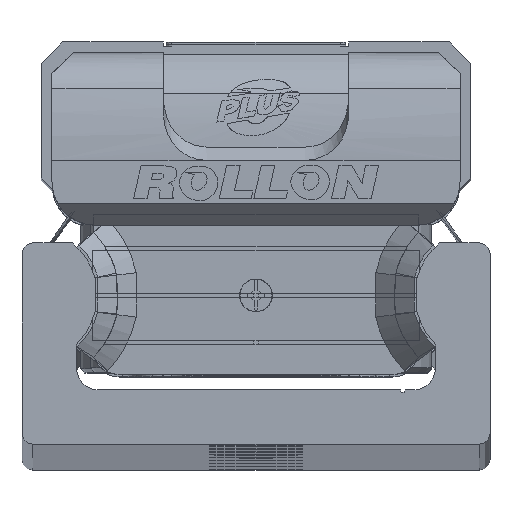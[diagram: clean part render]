
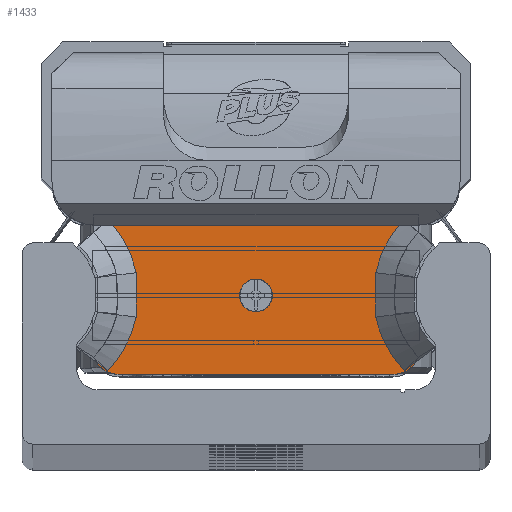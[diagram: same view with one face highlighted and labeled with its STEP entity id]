
A CAD part, top view. The second image highlights one B-rep face of the part: STEP entity #1433.
In plain terms, the highlighted planar face has unit normal (0, 0, 1) as drawn and (0, 0, -1) by its records, which use the part's own axes.
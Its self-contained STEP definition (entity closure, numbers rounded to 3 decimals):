
#1433 = ADVANCED_FACE( '', ( #3256, #3257 ), #3258, .F. );
#3256 = FACE_BOUND( '', #5607, .T. );
#3257 = FACE_OUTER_BOUND( '', #5608, .T. );
#3258 = PLANE( '', #5609 );
#5607 = EDGE_LOOP( '', ( #9508 ) );
#5608 = EDGE_LOOP( '', ( #9509, #9510, #9511, #9512, #9513, #9514, #9515, #9516, #9517, #9518, #9519, #9520 ) );
#5609 = AXIS2_PLACEMENT_3D( '', #9521, #9522, #9523 );
#9508 = ORIENTED_EDGE( '', *, *, #14097, .T. );
#9509 = ORIENTED_EDGE( '', *, *, #13518, .T. );
#9510 = ORIENTED_EDGE( '', *, *, #14098, .F. );
#9511 = ORIENTED_EDGE( '', *, *, #14099, .T. );
#9512 = ORIENTED_EDGE( '', *, *, #14100, .F. );
#9513 = ORIENTED_EDGE( '', *, *, #14101, .T. );
#9514 = ORIENTED_EDGE( '', *, *, #14102, .T. );
#9515 = ORIENTED_EDGE( '', *, *, #12838, .T. );
#9516 = ORIENTED_EDGE( '', *, *, #14103, .T. );
#9517 = ORIENTED_EDGE( '', *, *, #12988, .T. );
#9518 = ORIENTED_EDGE( '', *, *, #13909, .T. );
#9519 = ORIENTED_EDGE( '', *, *, #14016, .T. );
#9520 = ORIENTED_EDGE( '', *, *, #14104, .T. );
#9521 = CARTESIAN_POINT( '', ( 14.9, 7.35, -13.25 ) );
#9522 = DIRECTION( '', ( 0., 0., 1. ) );
#9523 = DIRECTION( '', ( 1., 0., 0. ) );
#12838 = EDGE_CURVE( '', #15233, #15231, #15234, .T. );
#12988 = EDGE_CURVE( '', #15494, #15492, #15495, .T. );
#13518 = EDGE_CURVE( '', #16384, #16382, #16385, .T. );
#13909 = EDGE_CURVE( '', #15492, #16994, #16996, .T. );
#14016 = EDGE_CURVE( '', #16994, #17158, #17160, .T. );
#14097 = EDGE_CURVE( '', #17270, #17270, #17271, .T. );
#14098 = EDGE_CURVE( '', #17272, #16382, #17273, .T. );
#14099 = EDGE_CURVE( '', #17272, #17274, #17275, .T. );
#14100 = EDGE_CURVE( '', #15624, #17274, #17276, .T. );
#14101 = EDGE_CURVE( '', #15624, #17277, #17278, .T. );
#14102 = EDGE_CURVE( '', #17277, #15233, #17279, .T. );
#14103 = EDGE_CURVE( '', #15231, #15494, #17280, .T. );
#14104 = EDGE_CURVE( '', #17158, #16384, #17281, .T. );
#15231 = VERTEX_POINT( '', #18665 );
#15233 = VERTEX_POINT( '', #18668 );
#15234 = B_SPLINE_CURVE_WITH_KNOTS( '', 2, ( #18669, #18670, #18671 ), .UNSPECIFIED., .F., .F., ( 3, 3 ), ( 0., 1. ), .UNSPECIFIED. );
#15492 = VERTEX_POINT( '', #19035 );
#15494 = VERTEX_POINT( '', #19040 );
#15495 = LINE( '', #19041, #19042 );
#15624 = VERTEX_POINT( '', #19223 );
#16382 = VERTEX_POINT( '', #20301 );
#16384 = VERTEX_POINT( '', #20304 );
#16385 = B_SPLINE_CURVE_WITH_KNOTS( '', 1, ( #20305, #20306 ), .UNSPECIFIED., .F., .F., ( 2, 2 ), ( 0., 1. ), .UNSPECIFIED. );
#16994 = VERTEX_POINT( '', #21131 );
#16996 = B_SPLINE_CURVE_WITH_KNOTS( '', 2, ( #21134, #21135, #21136, #21137, #21138 ), .UNSPECIFIED., .F., .F., ( 3, 2, 3 ), ( 0.133, 0.5, 1. ), .UNSPECIFIED. );
#17158 = VERTEX_POINT( '', #21348 );
#17160 = B_SPLINE_CURVE_WITH_KNOTS( '', 2, ( #21351, #21352, #21353 ), .UNSPECIFIED., .F., .F., ( 3, 3 ), ( 0., 1. ), .UNSPECIFIED. );
#17270 = VERTEX_POINT( '', #21591 );
#17271 = CIRCLE( '', #21592, 1.5 );
#17272 = VERTEX_POINT( '', #21593 );
#17273 = CIRCLE( '', #21594, 2.5 );
#17274 = VERTEX_POINT( '', #21595 );
#17275 = LINE( '', #21596, #21597 );
#17276 = CIRCLE( '', #21598, 2.5 );
#17277 = VERTEX_POINT( '', #21599 );
#17278 = B_SPLINE_CURVE_WITH_KNOTS( '', 1, ( #21600, #21601 ), .UNSPECIFIED., .F., .F., ( 2, 2 ), ( 0., 1. ), .UNSPECIFIED. );
#17279 = B_SPLINE_CURVE_WITH_KNOTS( '', 2, ( #21602, #21603, #21604, #21605, #21606 ), .UNSPECIFIED., .F., .F., ( 3, 2, 3 ), ( 0., 0.5, 1. ), .UNSPECIFIED. );
#17280 = B_SPLINE_CURVE_WITH_KNOTS( '', 2, ( #21607, #21608, #21609, #21610, #21611 ), .UNSPECIFIED., .F., .F., ( 3, 2, 3 ), ( 0., 0.5, 0.868 ), .UNSPECIFIED. );
#17281 = B_SPLINE_CURVE_WITH_KNOTS( '', 2, ( #21612, #21613, #21614, #21615, #21616 ), .UNSPECIFIED., .F., .F., ( 3, 2, 3 ), ( 0., 0.5, 1. ), .UNSPECIFIED. );
#18665 = CARTESIAN_POINT( '', ( -11.012, 2.045, -13.25 ) );
#18668 = CARTESIAN_POINT( '', ( -11.012, -2.045, -13.25 ) );
#18669 = CARTESIAN_POINT( '', ( -11.012, -2.045, -13.25 ) );
#18670 = CARTESIAN_POINT( '', ( -10.888, 0., -13.25 ) );
#18671 = CARTESIAN_POINT( '', ( -11.012, 2.045, -13.25 ) );
#19035 = CARTESIAN_POINT( '', ( 13.12, 6.4, -13.25 ) );
#19040 = CARTESIAN_POINT( '', ( -13.119, 6.4, -13.25 ) );
#19041 = CARTESIAN_POINT( '', ( 14.9, 6.4, -13.25 ) );
#19042 = VECTOR( '', #23475, 1000. );
#19223 = CARTESIAN_POINT( '', ( -14.904, -5.718, -13.25 ) );
#20301 = CARTESIAN_POINT( '', ( 14.906, -5.717, -13.25 ) );
#20304 = CARTESIAN_POINT( '', ( 13.628, -6.965, -13.25 ) );
#20305 = CARTESIAN_POINT( '', ( 13.628, -6.965, -13.25 ) );
#20306 = CARTESIAN_POINT( '', ( 14.9, -5.728, -13.25 ) );
#21131 = CARTESIAN_POINT( '', ( 11.012, 2.045, -13.25 ) );
#21134 = CARTESIAN_POINT( '', ( 13.119, 6.4, -13.25 ) );
#21135 = CARTESIAN_POINT( '', ( 12.459, 5.608, -13.25 ) );
#21136 = CARTESIAN_POINT( '', ( 11.968, 4.684, -13.25 ) );
#21137 = CARTESIAN_POINT( '', ( 11.301, 3.427, -13.25 ) );
#21138 = CARTESIAN_POINT( '', ( 11.012, 2.045, -13.25 ) );
#21348 = CARTESIAN_POINT( '', ( 11.012, -2.045, -13.25 ) );
#21351 = CARTESIAN_POINT( '', ( 11.012, 2.045, -13.25 ) );
#21352 = CARTESIAN_POINT( '', ( 10.888, 0., -13.25 ) );
#21353 = CARTESIAN_POINT( '', ( 11.012, -2.045, -13.25 ) );
#21591 = CARTESIAN_POINT( '', ( 1.5, -0.05, -13.25 ) );
#21592 = AXIS2_PLACEMENT_3D( '', #24923, #24924, #24925 );
#21593 = CARTESIAN_POINT( '', ( 12.58, -7.3, -13.25 ) );
#21594 = AXIS2_PLACEMENT_3D( '', #24926, #24927, #24928 );
#21595 = CARTESIAN_POINT( '', ( -12.58, -7.3, -13.25 ) );
#21596 = CARTESIAN_POINT( '', ( 12.58, -7.3, -13.25 ) );
#21597 = VECTOR( '', #24929, 1000. );
#21598 = AXIS2_PLACEMENT_3D( '', #24930, #24931, #24932 );
#21599 = CARTESIAN_POINT( '', ( -13.628, -6.965, -13.25 ) );
#21600 = CARTESIAN_POINT( '', ( -14.915, -5.713, -13.25 ) );
#21601 = CARTESIAN_POINT( '', ( -13.628, -6.965, -13.25 ) );
#21602 = CARTESIAN_POINT( '', ( -13.628, -6.965, -13.25 ) );
#21603 = CARTESIAN_POINT( '', ( -12.638, -5.946, -13.25 ) );
#21604 = CARTESIAN_POINT( '', ( -11.97, -4.691, -13.25 ) );
#21605 = CARTESIAN_POINT( '', ( -11.303, -3.437, -13.25 ) );
#21606 = CARTESIAN_POINT( '', ( -11.012, -2.045, -13.25 ) );
#21607 = CARTESIAN_POINT( '', ( -11.012, 2.045, -13.25 ) );
#21608 = CARTESIAN_POINT( '', ( -11.302, 3.432, -13.25 ) );
#21609 = CARTESIAN_POINT( '', ( -11.967, 4.685, -13.25 ) );
#21610 = CARTESIAN_POINT( '', ( -12.456, 5.606, -13.25 ) );
#21611 = CARTESIAN_POINT( '', ( -13.119, 6.4, -13.25 ) );
#21612 = CARTESIAN_POINT( '', ( 11.012, -2.045, -13.25 ) );
#21613 = CARTESIAN_POINT( '', ( 11.301, -3.43, -13.25 ) );
#21614 = CARTESIAN_POINT( '', ( 11.972, -4.69, -13.25 ) );
#21615 = CARTESIAN_POINT( '', ( 12.642, -5.95, -13.25 ) );
#21616 = CARTESIAN_POINT( '', ( 13.628, -6.965, -13.25 ) );
#23475 = DIRECTION( '', ( 1., 0., 0. ) );
#24923 = CARTESIAN_POINT( '', ( 0., -0.05, -13.25 ) );
#24924 = DIRECTION( '', ( 0., 0., 1. ) );
#24925 = DIRECTION( '', ( 1., 0., 0. ) );
#24926 = CARTESIAN_POINT( '', ( 12.58, -4.8, -13.25 ) );
#24927 = DIRECTION( '', ( 0., 0., 1. ) );
#24928 = DIRECTION( '', ( 1., 0., 0. ) );
#24929 = DIRECTION( '', ( -1., 0., 0. ) );
#24930 = CARTESIAN_POINT( '', ( -12.58, -4.8, -13.25 ) );
#24931 = DIRECTION( '', ( 0., 0., 1. ) );
#24932 = DIRECTION( '', ( 1., 0., 0. ) );
